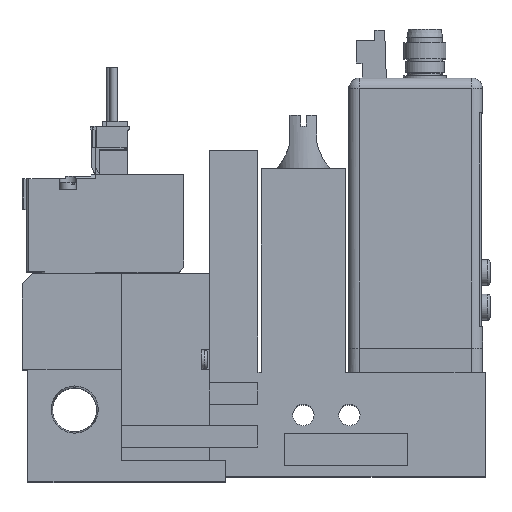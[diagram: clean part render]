
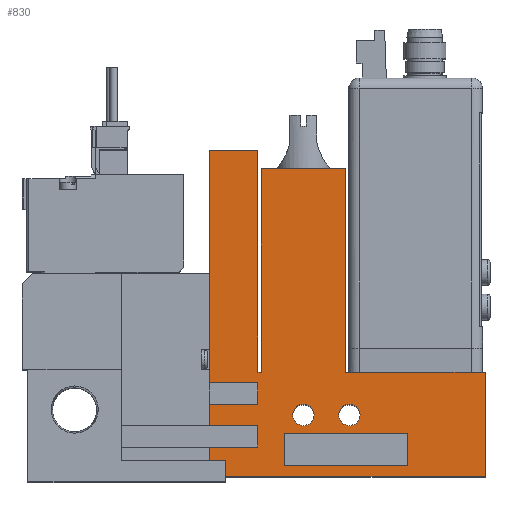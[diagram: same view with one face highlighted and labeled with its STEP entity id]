
A CAD part, top view. The second image highlights one B-rep face of the part: STEP entity #830.
In plain terms, the highlighted planar face has unit normal (0, 0, 1).
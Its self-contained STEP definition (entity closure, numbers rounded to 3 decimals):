
#830=ADVANCED_FACE('',(#3137,#3138,#3139,#3140),#3141,.T.);
#3137=FACE_OUTER_BOUND('',#7820,.T.);
#3138=FACE_BOUND('',#7821,.T.);
#3139=FACE_BOUND('',#7822,.T.);
#3140=FACE_BOUND('',#7823,.T.);
#3141=PLANE('',#7824);
#7820=EDGE_LOOP('',(#14125,#14126,#14127,#14128,#14129,#14130,#14131,#14132,#14133,#14134,#14135,#14136,#14137,#14138,#14139,#14140,#14141,#14142));
#7821=EDGE_LOOP('',(#14143,#14144,#14145,#14146));
#7822=EDGE_LOOP('',(#14147));
#7823=EDGE_LOOP('',(#14148));
#7824=AXIS2_PLACEMENT_3D('',#14149,#14150,#14151);
#14125=ORIENTED_EDGE('',*,*,#28862,.T.);
#14126=ORIENTED_EDGE('',*,*,#28863,.T.);
#14127=ORIENTED_EDGE('',*,*,#28864,.T.);
#14128=ORIENTED_EDGE('',*,*,#28865,.T.);
#14129=ORIENTED_EDGE('',*,*,#28866,.T.);
#14130=ORIENTED_EDGE('',*,*,#28867,.T.);
#14131=ORIENTED_EDGE('',*,*,#28868,.T.);
#14132=ORIENTED_EDGE('',*,*,#28869,.T.);
#14133=ORIENTED_EDGE('',*,*,#28870,.T.);
#14134=ORIENTED_EDGE('',*,*,#28871,.T.);
#14135=ORIENTED_EDGE('',*,*,#28872,.T.);
#14136=ORIENTED_EDGE('',*,*,#28873,.T.);
#14137=ORIENTED_EDGE('',*,*,#28874,.T.);
#14138=ORIENTED_EDGE('',*,*,#28875,.T.);
#14139=ORIENTED_EDGE('',*,*,#28876,.T.);
#14140=ORIENTED_EDGE('',*,*,#28877,.T.);
#14141=ORIENTED_EDGE('',*,*,#28878,.T.);
#14142=ORIENTED_EDGE('',*,*,#28879,.T.);
#14143=ORIENTED_EDGE('',*,*,#28880,.T.);
#14144=ORIENTED_EDGE('',*,*,#28881,.T.);
#14145=ORIENTED_EDGE('',*,*,#28882,.T.);
#14146=ORIENTED_EDGE('',*,*,#28861,.T.);
#14147=ORIENTED_EDGE('',*,*,#28883,.T.);
#14148=ORIENTED_EDGE('',*,*,#28884,.T.);
#14149=CARTESIAN_POINT('',(0.0,0.0,10.0));
#14150=DIRECTION('',(0.0,0.0,1.0));
#14151=DIRECTION('',(1.0,0.0,0.0));
#28861=EDGE_CURVE('',#34933,#34938,#34940,.T.);
#28862=EDGE_CURVE('',#34941,#34942,#34943,.T.);
#28863=EDGE_CURVE('',#34942,#34944,#34945,.T.);
#28864=EDGE_CURVE('',#34944,#34946,#34947,.T.);
#28865=EDGE_CURVE('',#34946,#34948,#34949,.T.);
#28866=EDGE_CURVE('',#34948,#34950,#34951,.T.);
#28867=EDGE_CURVE('',#34950,#34952,#34953,.T.);
#28868=EDGE_CURVE('',#34952,#34954,#34955,.T.);
#28869=EDGE_CURVE('',#34954,#34956,#34957,.T.);
#28870=EDGE_CURVE('',#34956,#34958,#34959,.T.);
#28871=EDGE_CURVE('',#34958,#34960,#34961,.T.);
#28872=EDGE_CURVE('',#34960,#34962,#34963,.T.);
#28873=EDGE_CURVE('',#34962,#34964,#34965,.T.);
#28874=EDGE_CURVE('',#34964,#34966,#34967,.T.);
#28875=EDGE_CURVE('',#34966,#34968,#34969,.T.);
#28876=EDGE_CURVE('',#34968,#34970,#34971,.T.);
#28877=EDGE_CURVE('',#34970,#34972,#34973,.T.);
#28878=EDGE_CURVE('',#34972,#34974,#34975,.T.);
#28879=EDGE_CURVE('',#34974,#34941,#34976,.T.);
#28880=EDGE_CURVE('',#34938,#34977,#34978,.T.);
#28881=EDGE_CURVE('',#34977,#34979,#34980,.T.);
#28882=EDGE_CURVE('',#34979,#34933,#34981,.T.);
#28883=EDGE_CURVE('',#34982,#34982,#34983,.T.);
#28884=EDGE_CURVE('',#34984,#34984,#34985,.T.);
#34933=VERTEX_POINT('',#44026);
#34938=VERTEX_POINT('',#44033);
#34940=LINE('',#44036,#44037);
#34941=VERTEX_POINT('',#44038);
#34942=VERTEX_POINT('',#44039);
#34943=LINE('',#44040,#44041);
#34944=VERTEX_POINT('',#44042);
#34945=LINE('',#44043,#44044);
#34946=VERTEX_POINT('',#44045);
#34947=LINE('',#44046,#44047);
#34948=VERTEX_POINT('',#44048);
#34949=LINE('',#44049,#44050);
#34950=VERTEX_POINT('',#44051);
#34951=LINE('',#44052,#44053);
#34952=VERTEX_POINT('',#44054);
#34953=LINE('',#44055,#44056);
#34954=VERTEX_POINT('',#44057);
#34955=LINE('',#44058,#44059);
#34956=VERTEX_POINT('',#44060);
#34957=LINE('',#44061,#44062);
#34958=VERTEX_POINT('',#44063);
#34959=LINE('',#44064,#44065);
#34960=VERTEX_POINT('',#44066);
#34961=LINE('',#44067,#44068);
#34962=VERTEX_POINT('',#44069);
#34963=LINE('',#44070,#44071);
#34964=VERTEX_POINT('',#44072);
#34965=LINE('',#44073,#44074);
#34966=VERTEX_POINT('',#44075);
#34967=LINE('',#44076,#44077);
#34968=VERTEX_POINT('',#44078);
#34969=LINE('',#44079,#44080);
#34970=VERTEX_POINT('',#44081);
#34971=LINE('',#44082,#44083);
#34972=VERTEX_POINT('',#44084);
#34973=LINE('',#44085,#44086);
#34974=VERTEX_POINT('',#44087);
#34975=LINE('',#44088,#44089);
#34976=LINE('',#44090,#44091);
#34977=VERTEX_POINT('',#44092);
#34978=LINE('',#44093,#44094);
#34979=VERTEX_POINT('',#44095);
#34980=LINE('',#44096,#44097);
#34981=LINE('',#44098,#44099);
#34982=VERTEX_POINT('',#44100);
#34983=CIRCLE('',#44101,2.0);
#34984=VERTEX_POINT('',#44102);
#34985=CIRCLE('',#44103,2.0);
#44026=CARTESIAN_POINT('',(72.1,2.0,10.0));
#44033=CARTESIAN_POINT('',(49.1,2.0,10.0));
#44036=CARTESIAN_POINT('',(0.0,2.0,10.0));
#44037=VECTOR('',#56281,1.0);
#44038=CARTESIAN_POINT('',(35.1,61.0,10.0));
#44039=CARTESIAN_POINT('',(35.1,17.5,10.0));
#44040=CARTESIAN_POINT('',(35.1,61.0,10.0));
#44041=VECTOR('',#56282,1.0);
#44042=CARTESIAN_POINT('',(44.1,17.5,10.0));
#44043=CARTESIAN_POINT('',(0.0,17.5,10.0));
#44044=VECTOR('',#56283,1.0);
#44045=CARTESIAN_POINT('',(44.1,13.5,10.0));
#44046=CARTESIAN_POINT('',(44.1,0.0,10.0));
#44047=VECTOR('',#56284,1.0);
#44048=CARTESIAN_POINT('',(35.1,13.5,10.0));
#44049=CARTESIAN_POINT('',(0.0,13.5,10.0));
#44050=VECTOR('',#56285,1.0);
#44051=CARTESIAN_POINT('',(35.1,9.5,10.0));
#44052=CARTESIAN_POINT('',(35.1,0.0,10.0));
#44053=VECTOR('',#56286,1.0);
#44054=CARTESIAN_POINT('',(44.1,9.5,10.0));
#44055=CARTESIAN_POINT('',(0.0,9.5,10.0));
#44056=VECTOR('',#56287,1.0);
#44057=CARTESIAN_POINT('',(44.1,5.5,10.0));
#44058=CARTESIAN_POINT('',(44.1,0.0,10.0));
#44059=VECTOR('',#56288,1.0);
#44060=CARTESIAN_POINT('',(35.1,5.5,10.0));
#44061=CARTESIAN_POINT('',(0.0,5.5,10.0));
#44062=VECTOR('',#56289,1.0);
#44063=CARTESIAN_POINT('',(35.1,0.0,10.0));
#44064=CARTESIAN_POINT('',(35.1,0.0,10.0));
#44065=VECTOR('',#56290,1.0);
#44066=CARTESIAN_POINT('',(86.6,0.0,10.0));
#44067=CARTESIAN_POINT('',(18.6,0.0,10.0));
#44068=VECTOR('',#56291,1.0);
#44069=CARTESIAN_POINT('',(86.6,19.5,10.0));
#44070=CARTESIAN_POINT('',(86.6,0.0,10.0));
#44071=VECTOR('',#56292,1.0);
#44072=CARTESIAN_POINT('',(60.45,19.5,10.0));
#44073=CARTESIAN_POINT('',(86.6,19.5,10.0));
#44074=VECTOR('',#56293,1.0);
#44075=CARTESIAN_POINT('',(60.45,57.5,10.0));
#44076=CARTESIAN_POINT('',(60.45,19.5,10.0));
#44077=VECTOR('',#56294,1.0);
#44078=CARTESIAN_POINT('',(44.75,57.5,10.0));
#44079=CARTESIAN_POINT('',(60.45,57.5,10.0));
#44080=VECTOR('',#56295,1.0);
#44081=CARTESIAN_POINT('',(44.75,19.5,10.0));
#44082=CARTESIAN_POINT('',(44.75,57.5,10.0));
#44083=VECTOR('',#56296,1.0);
#44084=CARTESIAN_POINT('',(44.1,19.5,10.0));
#44085=CARTESIAN_POINT('',(44.75,19.5,10.0));
#44086=VECTOR('',#56297,1.0);
#44087=CARTESIAN_POINT('',(44.1,61.0,10.0));
#44088=CARTESIAN_POINT('',(44.1,19.5,10.0));
#44089=VECTOR('',#56298,1.0);
#44090=CARTESIAN_POINT('',(44.1,61.0,10.0));
#44091=VECTOR('',#56299,1.0);
#44092=CARTESIAN_POINT('',(49.1,8.0,10.0));
#44093=CARTESIAN_POINT('',(49.1,0.0,10.0));
#44094=VECTOR('',#56300,1.0);
#44095=CARTESIAN_POINT('',(72.1,8.0,10.0));
#44096=CARTESIAN_POINT('',(0.0,8.0,10.0));
#44097=VECTOR('',#56301,1.0);
#44098=CARTESIAN_POINT('',(72.1,0.0,10.0));
#44099=VECTOR('',#56302,1.0);
#44100=CARTESIAN_POINT('',(54.6,11.5,10.0));
#44101=AXIS2_PLACEMENT_3D('',#56303,#56304,#56305);
#44102=CARTESIAN_POINT('',(63.2,11.5,10.0));
#44103=AXIS2_PLACEMENT_3D('',#56306,#56307,#56308);
#56281=DIRECTION('',(-1.0,0.0,0.0));
#56282=DIRECTION('',(0.0,-1.0,0.0));
#56283=DIRECTION('',(1.0,0.0,0.0));
#56284=DIRECTION('',(0.0,-1.0,0.0));
#56285=DIRECTION('',(-1.0,0.0,0.0));
#56286=DIRECTION('',(0.0,-1.0,0.0));
#56287=DIRECTION('',(1.0,0.0,0.0));
#56288=DIRECTION('',(0.0,-1.0,0.0));
#56289=DIRECTION('',(-1.0,0.0,0.0));
#56290=DIRECTION('',(0.0,-1.0,0.0));
#56291=DIRECTION('',(1.0,0.0,0.0));
#56292=DIRECTION('',(0.0,1.0,0.0));
#56293=DIRECTION('',(-1.0,0.0,0.0));
#56294=DIRECTION('',(0.0,1.0,0.0));
#56295=DIRECTION('',(-1.0,0.0,0.0));
#56296=DIRECTION('',(0.0,-1.0,0.0));
#56297=DIRECTION('',(-1.0,0.0,0.0));
#56298=DIRECTION('',(0.0,1.0,0.0));
#56299=DIRECTION('',(-1.0,0.0,0.0));
#56300=DIRECTION('',(0.0,1.0,0.0));
#56301=DIRECTION('',(1.0,0.0,0.0));
#56302=DIRECTION('',(0.0,-1.0,0.0));
#56303=CARTESIAN_POINT('',(52.6,11.5,10.0));
#56304=DIRECTION('',(0.0,0.0,-1.0));
#56305=DIRECTION('',(1.0,0.0,0.0));
#56306=CARTESIAN_POINT('',(61.2,11.5,10.0));
#56307=DIRECTION('',(0.0,0.0,-1.0));
#56308=DIRECTION('',(1.0,0.0,0.0));
